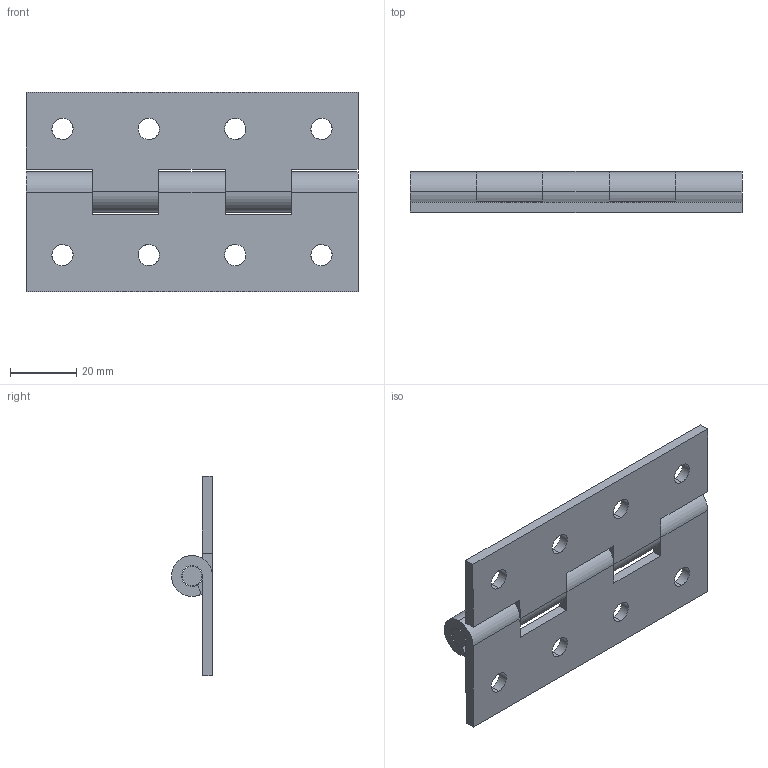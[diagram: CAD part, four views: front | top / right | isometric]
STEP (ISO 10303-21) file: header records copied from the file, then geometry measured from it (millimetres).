
FILE_DESCRIPTION (( 'STEP AP203' ), '1' );
FILE_NAME ('B18-18786.STEP', '2024-10-24T09:23:49', ( '' ), ( '' ), 'SwSTEP 2.0', 'SolidWorks 2021', '' );
FILE_SCHEMA (( 'CONFIG_CONTROL_DESIGN' ));
Length unit declared in the file: millimetre
Products named in the file (4): B18-107816-1; B18-6-100; B18-18786; B18-107816-2
Assembly tree (3 placements, depth 2):
  B18-18786
    B18-6-100
    B18-107816-1
    B18-107816-2
Bounding box: 100 x 12.3 x 60.01 mm (x, y, z)
Volume: 25315.7 mm3; surface area: 19808.6 mm2
Topology: 3 solids, 3 shells, 83 faces, 231 edges, 154 vertices
Faces by surface type: cylinder 48, plane 35
Entity records: 3131 total; most frequent: CARTESIAN_POINT 522, DIRECTION 473, ORIENTED_EDGE 462, EDGE_CURVE 231, AXIS2_PLACEMENT_3D 169, VERTEX_POINT 154, VECTOR 135, LINE 135
